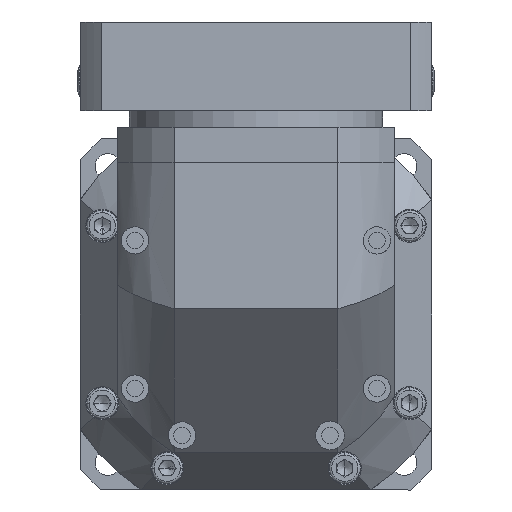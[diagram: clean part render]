
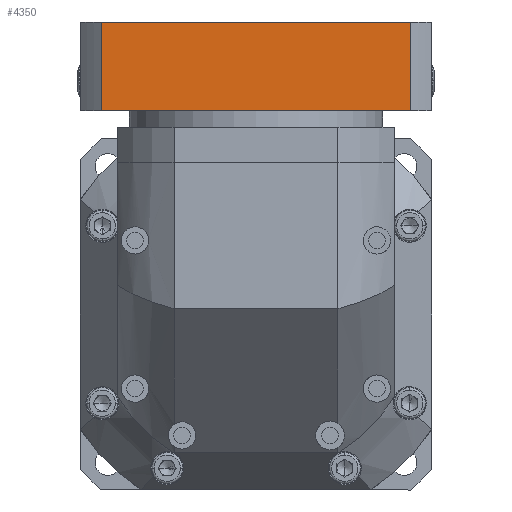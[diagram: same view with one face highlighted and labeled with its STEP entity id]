
A CAD part, left-side view. The second image highlights one B-rep face of the part: STEP entity #4350.
In plain terms, the highlighted planar face has unit normal (-1, 0, 0).
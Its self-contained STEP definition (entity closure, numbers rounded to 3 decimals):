
#483 = VECTOR ( 'NONE', #25964, 1000. ) ;
#734 = DIRECTION ( 'NONE',  ( 0., 0., -1. ) ) ;
#2662 = CARTESIAN_POINT ( 'NONE',  ( -253., -87.617, 104.5 ) ) ;
#2936 = ORIENTED_EDGE ( 'NONE', *, *, #23499, .F. ) ;
#3015 = EDGE_CURVE ( 'NONE', #24740, #27979, #10459, .T. ) ;
#3585 = FACE_OUTER_BOUND ( 'NONE', #9780, .T. ) ;
#3603 = VECTOR ( 'NONE', #26362, 1000. ) ;
#4350 = ADVANCED_FACE ( 'NONE', ( #3585 ), #30360, .F. ) ;
#4650 = DIRECTION ( 'NONE',  ( 0., -1., 0. ) ) ;
#5018 = AXIS2_PLACEMENT_3D ( 'NONE', #16324, #18684, #4650 ) ;
#8367 = DIRECTION ( 'NONE',  ( 0., -1., 0. ) ) ;
#9611 = ORIENTED_EDGE ( 'NONE', *, *, #18971, .F. ) ;
#9738 = VECTOR ( 'NONE', #734, 1000. ) ;
#9780 = EDGE_LOOP ( 'NONE', ( #2936, #30227, #16287, #9611 ) ) ;
#9991 = CARTESIAN_POINT ( 'NONE',  ( -253., -79.373, 150. ) ) ;
#10459 = LINE ( 'NONE', #9991, #9738 ) ;
#11025 = CARTESIAN_POINT ( 'NONE',  ( -253., -79.373, 150. ) ) ;
#14840 = LINE ( 'NONE', #27105, #26550 ) ;
#15294 = LINE ( 'NONE', #24013, #3603 ) ;
#15667 = CARTESIAN_POINT ( 'NONE',  ( -253., 79.373, 150. ) ) ;
#16287 = ORIENTED_EDGE ( 'NONE', *, *, #21692, .F. ) ;
#16324 = CARTESIAN_POINT ( 'NONE',  ( -253., -87.617, 104.5 ) ) ;
#17543 = CARTESIAN_POINT ( 'NONE',  ( -253., 79.373, 104.5 ) ) ;
#18684 = DIRECTION ( 'NONE',  ( 1., 0., 0. ) ) ;
#18971 = EDGE_CURVE ( 'NONE', #28743, #27205, #15294, .T. ) ;
#19113 = LINE ( 'NONE', #2662, #483 ) ;
#21692 = EDGE_CURVE ( 'NONE', #27205, #24740, #14840, .T. ) ;
#23499 = EDGE_CURVE ( 'NONE', #27979, #28743, #19113, .T. ) ;
#24013 = CARTESIAN_POINT ( 'NONE',  ( -253., 79.373, 150. ) ) ;
#24740 = VERTEX_POINT ( 'NONE', #11025 ) ;
#25964 = DIRECTION ( 'NONE',  ( 0., 1., 0. ) ) ;
#26362 = DIRECTION ( 'NONE',  ( 0., 0., 1. ) ) ;
#26550 = VECTOR ( 'NONE', #8367, 1000. ) ;
#27105 = CARTESIAN_POINT ( 'NONE',  ( -253., 0., 150. ) ) ;
#27205 = VERTEX_POINT ( 'NONE', #15667 ) ;
#27979 = VERTEX_POINT ( 'NONE', #29918 ) ;
#28743 = VERTEX_POINT ( 'NONE', #17543 ) ;
#29918 = CARTESIAN_POINT ( 'NONE',  ( -253., -79.373, 104.5 ) ) ;
#30227 = ORIENTED_EDGE ( 'NONE', *, *, #3015, .F. ) ;
#30360 = PLANE ( 'NONE',  #5018 ) ;
